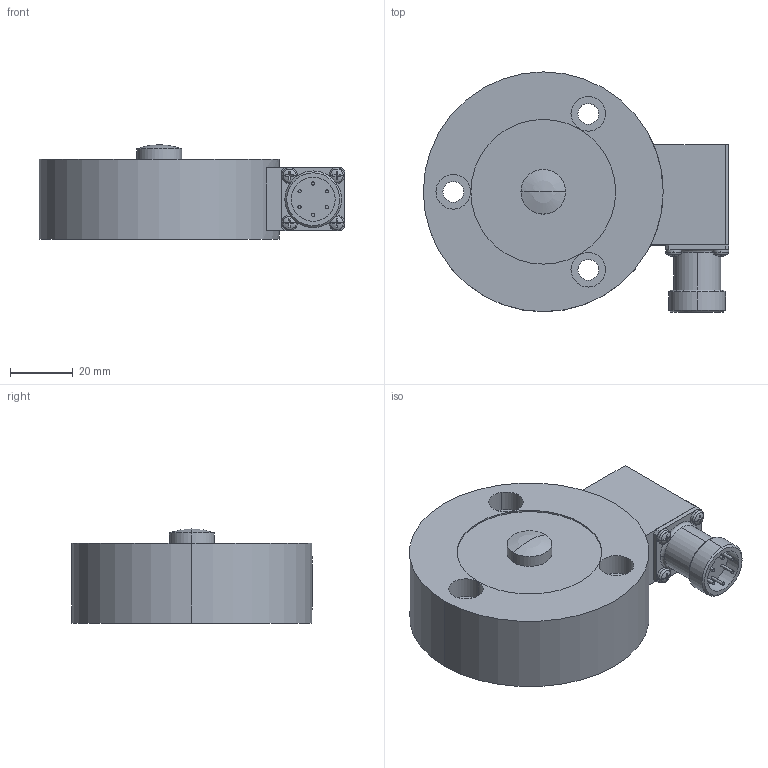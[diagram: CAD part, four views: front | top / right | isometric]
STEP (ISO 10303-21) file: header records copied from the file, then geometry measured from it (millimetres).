
FILE_DESCRIPTION(('STEP AP203'),'1');
FILE_NAME('C:/TPO v2/SharedFS/Outgoing/burster_85073-0_05_3btlkoqzee4c3ggiyhzpx9q50.stp','2013-08-27T14:08:46',('TraceParts'),('TraceParts S.A.'),'XStep 1.0',' ',' ');
FILE_SCHEMA(('CONFIG_CONTROL_DESIGN'));
Length unit declared in the file: millimetre
Products named in the file (1): 1
Bounding box: 97 x 76.3 x 30 mm (x, y, z)
Volume: 127635.4 mm3; surface area: 21418.3 mm2
Topology: 1 solids, 1 shells, 160 faces, 387 edges, 243 vertices
Faces by surface type: plane 88, cylinder 40, torus 18, cone 12, sphere 2
Entity records: 5113 total; most frequent: CARTESIAN_POINT 1305, DIRECTION 807, ORIENTED_EDGE 770, EDGE_CURVE 385, AXIS2_PLACEMENT_3D 321, VERTEX_POINT 243, EDGE_LOOP 182, LINE 165
